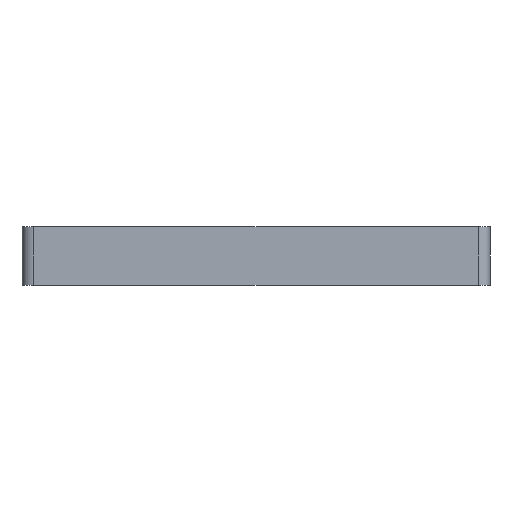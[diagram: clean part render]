
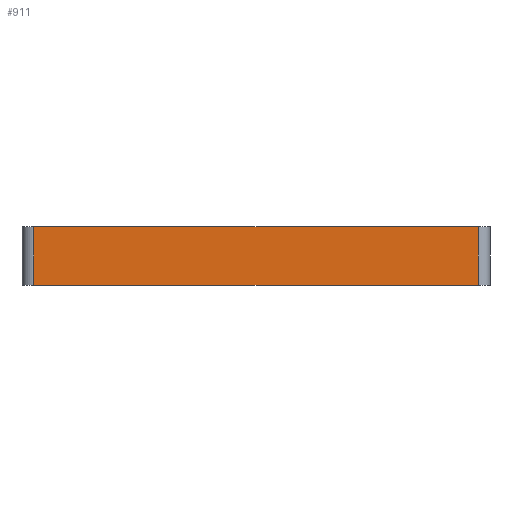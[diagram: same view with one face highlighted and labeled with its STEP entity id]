
A CAD part, front view. The second image highlights one B-rep face of the part: STEP entity #911.
In plain terms, the highlighted planar face has unit normal (0, -1, 0).
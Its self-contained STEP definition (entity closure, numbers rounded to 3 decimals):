
#44 = PLANE('',#45);
#45 = AXIS2_PLACEMENT_3D('',#46,#47,#48);
#46 = CARTESIAN_POINT('',(-16.,-20.,2.));
#47 = DIRECTION('',(0.,0.,1.));
#48 = DIRECTION('',(1.,0.,0.));
#72 = CYLINDRICAL_SURFACE('',#73,0.8);
#73 = AXIS2_PLACEMENT_3D('',#74,#75,#76);
#74 = CARTESIAN_POINT('',(-15.2,-19.2,-2.));
#75 = DIRECTION('',(0.,0.,1.));
#76 = DIRECTION('',(-1.,-0.,0.));
#100 = PLANE('',#101);
#101 = AXIS2_PLACEMENT_3D('',#102,#103,#104);
#102 = CARTESIAN_POINT('',(-16.,-20.,-2.));
#103 = DIRECTION('',(0.,0.,1.));
#104 = DIRECTION('',(1.,0.,0.));
#143 = VERTEX_POINT('',#144);
#144 = CARTESIAN_POINT('',(-15.2,-20.,2.));
#166 = EDGE_CURVE('',#143,#167,#169,.T.);
#167 = VERTEX_POINT('',#168);
#168 = CARTESIAN_POINT('',(15.2,-20.,2.));
#169 = SURFACE_CURVE('',#170,(#174,#181),.PCURVE_S1.);
#170 = LINE('',#171,#172);
#171 = CARTESIAN_POINT('',(-16.,-20.,2.));
#172 = VECTOR('',#173,1.);
#173 = DIRECTION('',(1.,0.,0.));
#174 = PCURVE('',#44,#175);
#175 = DEFINITIONAL_REPRESENTATION('',(#176),#180);
#176 = LINE('',#177,#178);
#177 = CARTESIAN_POINT('',(0.,0.));
#178 = VECTOR('',#179,1.);
#179 = DIRECTION('',(1.,0.));
#180 = ( GEOMETRIC_REPRESENTATION_CONTEXT(2) 
PARAMETRIC_REPRESENTATION_CONTEXT() REPRESENTATION_CONTEXT('2D SPACE',''
  ) );
#181 = PCURVE('',#182,#187);
#182 = PLANE('',#183);
#183 = AXIS2_PLACEMENT_3D('',#184,#185,#186);
#184 = CARTESIAN_POINT('',(-16.,-20.,-2.));
#185 = DIRECTION('',(0.,1.,0.));
#186 = DIRECTION('',(0.,0.,1.));
#187 = DEFINITIONAL_REPRESENTATION('',(#188),#192);
#188 = LINE('',#189,#190);
#189 = CARTESIAN_POINT('',(4.,0.));
#190 = VECTOR('',#191,1.);
#191 = DIRECTION('',(0.,1.));
#192 = ( GEOMETRIC_REPRESENTATION_CONTEXT(2) 
PARAMETRIC_REPRESENTATION_CONTEXT() REPRESENTATION_CONTEXT('2D SPACE',''
  ) );
#211 = CYLINDRICAL_SURFACE('',#212,0.8);
#212 = AXIS2_PLACEMENT_3D('',#213,#214,#215);
#213 = CARTESIAN_POINT('',(15.2,-19.2,-2.));
#214 = DIRECTION('',(0.,0.,1.));
#215 = DIRECTION('',(0.,-1.,0.));
#517 = VERTEX_POINT('',#518);
#518 = CARTESIAN_POINT('',(-15.2,-20.,-2.));
#540 = EDGE_CURVE('',#517,#143,#541,.T.);
#541 = SURFACE_CURVE('',#542,(#546,#553),.PCURVE_S1.);
#542 = LINE('',#543,#544);
#543 = CARTESIAN_POINT('',(-15.2,-20.,-2.));
#544 = VECTOR('',#545,1.);
#545 = DIRECTION('',(0.,0.,1.));
#546 = PCURVE('',#72,#547);
#547 = DEFINITIONAL_REPRESENTATION('',(#548),#552);
#548 = LINE('',#549,#550);
#549 = CARTESIAN_POINT('',(1.571,0.));
#550 = VECTOR('',#551,1.);
#551 = DIRECTION('',(0.,1.));
#552 = ( GEOMETRIC_REPRESENTATION_CONTEXT(2) 
PARAMETRIC_REPRESENTATION_CONTEXT() REPRESENTATION_CONTEXT('2D SPACE',''
  ) );
#553 = PCURVE('',#182,#554);
#554 = DEFINITIONAL_REPRESENTATION('',(#555),#559);
#555 = LINE('',#556,#557);
#556 = CARTESIAN_POINT('',(0.,0.8));
#557 = VECTOR('',#558,1.);
#558 = DIRECTION('',(1.,0.));
#559 = ( GEOMETRIC_REPRESENTATION_CONTEXT(2) 
PARAMETRIC_REPRESENTATION_CONTEXT() REPRESENTATION_CONTEXT('2D SPACE',''
  ) );
#622 = EDGE_CURVE('',#517,#623,#625,.T.);
#623 = VERTEX_POINT('',#624);
#624 = CARTESIAN_POINT('',(15.2,-20.,-2.));
#625 = SURFACE_CURVE('',#626,(#630,#637),.PCURVE_S1.);
#626 = LINE('',#627,#628);
#627 = CARTESIAN_POINT('',(-16.,-20.,-2.));
#628 = VECTOR('',#629,1.);
#629 = DIRECTION('',(1.,0.,0.));
#630 = PCURVE('',#100,#631);
#631 = DEFINITIONAL_REPRESENTATION('',(#632),#636);
#632 = LINE('',#633,#634);
#633 = CARTESIAN_POINT('',(0.,0.));
#634 = VECTOR('',#635,1.);
#635 = DIRECTION('',(1.,0.));
#636 = ( GEOMETRIC_REPRESENTATION_CONTEXT(2) 
PARAMETRIC_REPRESENTATION_CONTEXT() REPRESENTATION_CONTEXT('2D SPACE',''
  ) );
#637 = PCURVE('',#182,#638);
#638 = DEFINITIONAL_REPRESENTATION('',(#639),#643);
#639 = LINE('',#640,#641);
#640 = CARTESIAN_POINT('',(0.,0.));
#641 = VECTOR('',#642,1.);
#642 = DIRECTION('',(0.,1.));
#643 = ( GEOMETRIC_REPRESENTATION_CONTEXT(2) 
PARAMETRIC_REPRESENTATION_CONTEXT() REPRESENTATION_CONTEXT('2D SPACE',''
  ) );
#911 = ADVANCED_FACE('',(#912),#182,.F.);
#912 = FACE_BOUND('',#913,.F.);
#913 = EDGE_LOOP('',(#914,#915,#916,#917));
#914 = ORIENTED_EDGE('',*,*,#622,.F.);
#915 = ORIENTED_EDGE('',*,*,#540,.T.);
#916 = ORIENTED_EDGE('',*,*,#166,.T.);
#917 = ORIENTED_EDGE('',*,*,#918,.F.);
#918 = EDGE_CURVE('',#623,#167,#919,.T.);
#919 = SURFACE_CURVE('',#920,(#924,#931),.PCURVE_S1.);
#920 = LINE('',#921,#922);
#921 = CARTESIAN_POINT('',(15.2,-20.,-2.));
#922 = VECTOR('',#923,1.);
#923 = DIRECTION('',(0.,0.,1.));
#924 = PCURVE('',#182,#925);
#925 = DEFINITIONAL_REPRESENTATION('',(#926),#930);
#926 = LINE('',#927,#928);
#927 = CARTESIAN_POINT('',(0.,31.2));
#928 = VECTOR('',#929,1.);
#929 = DIRECTION('',(1.,0.));
#930 = ( GEOMETRIC_REPRESENTATION_CONTEXT(2) 
PARAMETRIC_REPRESENTATION_CONTEXT() REPRESENTATION_CONTEXT('2D SPACE',''
  ) );
#931 = PCURVE('',#211,#932);
#932 = DEFINITIONAL_REPRESENTATION('',(#933),#937);
#933 = LINE('',#934,#935);
#934 = CARTESIAN_POINT('',(0.,0.));
#935 = VECTOR('',#936,1.);
#936 = DIRECTION('',(0.,1.));
#937 = ( GEOMETRIC_REPRESENTATION_CONTEXT(2) 
PARAMETRIC_REPRESENTATION_CONTEXT() REPRESENTATION_CONTEXT('2D SPACE',''
  ) );
